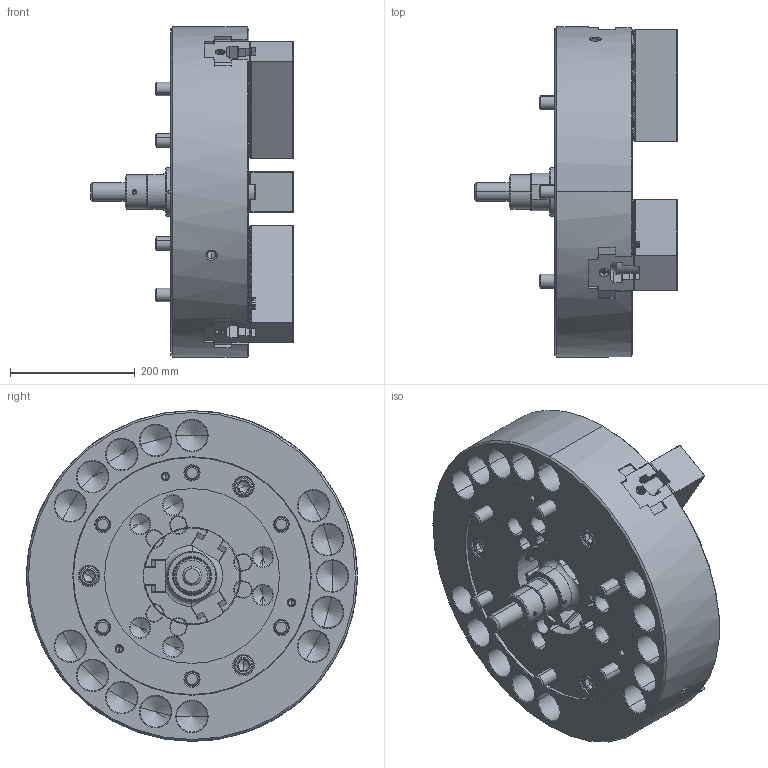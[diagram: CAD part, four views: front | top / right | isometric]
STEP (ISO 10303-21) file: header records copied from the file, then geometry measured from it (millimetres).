
FILE_DESCRIPTION (( 'STEP AP214' ), '1' );
FILE_NAME ('DT1_N-21_OUTSIDE_VIEW_HCL.STEP', '2026-03-19T00:01:11', ( '' ), ( '' ), 'SwSTEP 2.0', 'SolidWorks 2022', '' );
FILE_SCHEMA (( 'AUTOMOTIVE_DESIGN' ));
Length unit declared in the file: millimetre
Products named in the file (11): DT1_N-21_BASE^DT1_N-21; DT1_N-21_DRAWSCREW^DT1_N-21; DT1_N-21_TNUT^DT1_N-21; DT1_N-21_M20x60^DT1_N-21; DT1_N-21_M6x12^DT1_N-21; DT1_N-21_OUTSIDE_VIEW_HCL; DT1_N-21_DN^DT1_N-21; DT1_N-21_COVER^DT1_N-21; DT1_N-21_M22x120^DT1_N-21; Copy of 61P321208^DT1_N-21; DT1_N-21_SOFTJAW^DT1_N-21
Assembly tree (29 placements, depth 2):
  DT1_N-21_OUTSIDE_VIEW_HCL
    DT1_N-21_SOFTJAW^DT1_N-21  x3
    DT1_N-21_TNUT^DT1_N-21  x6
    DT1_N-21_COVER^DT1_N-21
    DT1_N-21_DRAWSCREW^DT1_N-21
    Copy of 61P321208^DT1_N-21
    DT1_N-21_DN^DT1_N-21
    DT1_N-21_BASE^DT1_N-21
    DT1_N-21_M6x12^DT1_N-21  x3
    DT1_N-21_M22x120^DT1_N-21  x6
    DT1_N-21_M20x60^DT1_N-21  x6
Bounding box: 324.5 x 530 x 530 mm (x, y, z)
Volume: 25990839.4 mm3; surface area: 1647313.2 mm2
Topology: 29 solids, 47 shells, 8159 faces, 23040 edges, 15128 vertices
Faces by surface type: plane 5150, cylinder 1538, bspline 848, cone 537, torus 80, sphere 6
Entity records: 227974 total; most frequent: CARTESIAN_POINT 72706, ORIENTED_EDGE 35204, DIRECTION 27387, EDGE_CURVE 17602, LINE 13209, VECTOR 13209, VERTEX_POINT 11602, AXIS2_PLACEMENT_3D 7089
